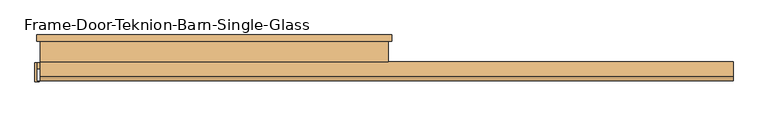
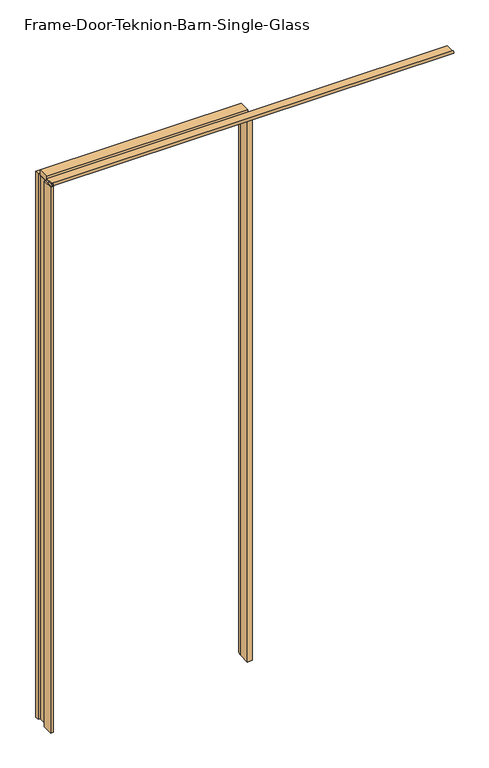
"""IFC4 building model written with IfcOpenShell, lengths in millimetres: door geometry, Frame-Door-Teknion-Barn-Single-Glass : FPBGFJ."""

from ifc_helpers import new_model, si_unit, point, frame, frame_2d, origin, origin_with_axes, place, context, project, spatial, polyline, circle_curve, ellipse_curve, trimmed, segment, composite_curve, outline, extrude, source, transform, mapped, element, save
from ifc_brep_helpers import plane_surface, cylinder_surface, advanced_brep


def frame_door_teknion_barn_single_glass_ce8aa2a7(model_context):
    return source(origin(), model_context, "Body", "SolidModel", [
        extrude(outline(polyline([(-527.9384741, -32.3583761), (-523.2069058, -32.3583761), (-523.2069058, -86.5235242), (-514.4806484, -86.5235242), (-514.4806484, -88.3672512), (-527.9384741, -88.3672512), (-527.9384741, -32.3583761)])), origin_with_axes(), (0.0, 0.0, 1.0), 2941.1139997),
        advanced_brep(
        [(-515.4800297, 50.0254003, 0.0), (-497.6624339, 10.863653, 0.0), (-497.6624339, -50.0254003, 0.0), (-523.2148343, -50.0254003, 0.0), (-523.2148343, -31.6863997, 0.0), (-511.4800343, -31.6863997, 0.0), (-511.4800343, 30.7214003, 0.0), (-523.2402343, 30.7214003, 0.0), (-523.2402343, 50.0254003, 0.0), (-515.4800297, 50.0254003, 2933.379195), (-497.6624339, 10.863653, 2915.5615993), (-497.6624339, -50.0254003, 2915.5615993), (497.6624339, -50.0254003, 2915.5615993), (497.6624339, -50.0254003, 0.0), (523.2148343, -50.0254003, 0.0), (523.2148343, -50.0254003, 2941.1139997), (-523.2148343, -50.0254003, 2941.1139997), (-523.2148343, -31.6863997, 2941.1139997), (523.2148343, -31.6863997, 2941.1139997), (523.2148343, -31.6863997, 0.0), (511.4800343, -31.6863997, 0.0), (511.4800343, -31.6863997, 2929.3791997), (-511.4800343, -31.6863997, 2929.3791997), (-511.4800343, 30.7214003, 2929.3791997), (511.4800343, 30.7214003, 2929.3791997), (511.4800343, 30.7214003, 0.0), (523.2402343, 30.7214003, 0.0), (523.2402343, 30.7214003, 2941.1393997), (-523.2402343, 30.7214003, 2941.1393997), (-523.2402343, 50.0254003, 2941.1393997), (523.2402343, 50.0254003, 2941.1393997), (523.2402343, 50.0254003, 0.0), (515.4800297, 50.0254003, 0.0), (515.4800297, 50.0254003, 2933.379195), (497.6624339, 10.863653, 2915.5615993), (497.6624339, 10.863653, 0.0)],
        [
            (0, 1, circle_curve(frame((-549.6085326, 10.863653, 0.0), z_axis=(0.0, 0.0, -1.0), x_axis=(-1.0, 0.0, 0.0)), 51.9460987)),
            (1, 2),
            (2, 3),
            (3, 4),
            (4, 5),
            (5, 6),
            (6, 7),
            (7, 8),
            (8, 0),
            (0, 9),
            (9, 10, ellipse_curve(frame((-549.6085326, 10.863653, 2967.5076979), z_axis=(-0.7071067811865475, 0.0, -0.7071067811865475), x_axis=(0.7071067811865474, 0.0, -0.7071067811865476)), 73.4628772, 51.9460987)),
            (10, 1),
            (10, 11),
            (11, 2),
            (11, 12),
            (12, 13),
            (13, 14),
            (14, 15),
            (15, 16),
            (16, 3),
            (16, 17),
            (17, 4),
            (17, 18),
            (18, 19),
            (19, 20),
            (20, 21),
            (21, 22),
            (22, 5),
            (22, 23),
            (23, 6),
            (23, 24),
            (24, 25),
            (25, 26),
            (26, 27),
            (27, 28),
            (28, 7),
            (28, 29),
            (29, 8),
            (29, 30),
            (30, 31),
            (31, 32),
            (32, 33),
            (33, 9),
            (12, 34),
            (34, 35),
            (35, 13),
            (34, 33, ellipse_curve(frame((549.6085326, 10.863653, 2967.5076979), z_axis=(0.7071067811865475, 0.0, -0.7071067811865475), x_axis=(0.7071067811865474, 0.0, 0.7071067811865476)), 73.4628772, 51.9460987)),
            (32, 35, circle_curve(frame((549.6085326, 10.863653, 0.0), z_axis=(0.0, 0.0, 1.0), x_axis=(1.0, 0.0, 0.0)), 51.9460987)),
            (31, 26),
            (25, 20),
            (19, 14),
            (18, 15),
            (24, 21),
            (30, 27),
            (10, 34),
        ],
        [
            plane_surface(frame((-512.4152344, 0.0, 0.0), z_axis=(0.0, 0.0, -1.0), x_axis=(0.0, -1.0, 0.0))),
            cylinder_surface(frame((-549.6085326, 10.863653, 0.0), z_axis=(0.0, 0.0, -1.0), x_axis=(-1.0, 0.0, 0.0)), 51.9460987),
            plane_surface(frame((-497.6624339, 10.863653, 0.0), z_axis=(1.0, 0.0, 0.0), x_axis=(0.0, 0.0, 1.0))),
            plane_surface(frame((-497.6624339, -50.0254003, 0.0), z_axis=(0.0, -1.0, 0.0), x_axis=(0.0, 0.0, 1.0))),
            plane_surface(frame((-523.2148343, -50.0254003, 0.0), z_axis=(-1.0, 0.0, 0.0), x_axis=(0.0, 0.0, 1.0))),
            plane_surface(frame((-523.2148343, -31.6863997, 0.0), z_axis=(0.0, 1.0, 0.0), x_axis=(0.0, 0.0, 1.0))),
            plane_surface(frame((-511.4800343, -31.6863997, 0.0), z_axis=(-1.0, 0.0, 0.0), x_axis=(0.0, 0.0, 1.0))),
            plane_surface(frame((-511.4800343, 30.7214003, 0.0), z_axis=(0.0, -1.0, 0.0), x_axis=(0.0, 0.0, 1.0))),
            plane_surface(frame((-523.2402343, 30.7214003, 0.0), z_axis=(-1.0, 0.0, 0.0), x_axis=(0.0, 0.0, 1.0))),
            plane_surface(frame((-523.2402343, 50.0254003, 0.0), z_axis=(0.0, 1.0, 0.0), x_axis=(0.0, 0.0, 1.0))),
            plane_surface(frame((497.6624339, 10.863653, 2915.5615993), z_axis=(-1.0, 0.0, 0.0), x_axis=(0.0, 0.0, -1.0))),
            cylinder_surface(frame((549.6085326, 10.863653, 2930.3143997), z_axis=(0.0, 0.0, 1.0), x_axis=(1.0, 0.0, 0.0)), 51.9460987),
            plane_surface(frame((512.4152344, 0.0, 0.0), z_axis=(0.0, 0.0, -1.0), x_axis=(0.0, -1.0, 0.0))),
            plane_surface(frame((523.2148343, -50.0254003, 2941.1139997), z_axis=(1.0, 0.0, 0.0), x_axis=(0.0, 0.0, -1.0))),
            plane_surface(frame((511.4800343, -31.6863997, 2929.3791997), z_axis=(1.0, 0.0, 0.0), x_axis=(0.0, 0.0, -1.0))),
            plane_surface(frame((523.2402343, 30.7214003, 2941.1393997), z_axis=(1.0, 0.0, 0.0), x_axis=(0.0, 0.0, -1.0))),
            plane_surface(frame((-497.6624339, 10.863653, 2915.5615993), z_axis=(0.0, 0.0, -1.0), x_axis=(1.0, 0.0, 0.0))),
            plane_surface(frame((-523.2148343, -50.0254003, 2941.1139997), z_axis=(0.0, 0.0, 1.0), x_axis=(1.0, 0.0, 0.0))),
            plane_surface(frame((-511.4800343, -31.6863997, 2929.3791997), z_axis=(0.0, 0.0, 1.0), x_axis=(1.0, 0.0, 0.0))),
            plane_surface(frame((-523.2402343, 30.7214003, 2941.1393997), z_axis=(0.0, 0.0, 1.0), x_axis=(1.0, 0.0, 0.0))),
            cylinder_surface(frame((-512.4152344, 10.863653, 2967.5076979), z_axis=(-1.0, 0.0, 0.0), x_axis=(0.0, 0.0, 1.0)), 51.9460987),
        ],
        [
            (0, [[1, 2, 3, 4, 5, 6, 7, 8, 9]]),
            (1, [[-1, 10, 11, 12]]),
            (2, [[-2, -12, 13, 14]]),
            (3, [[-3, -14, 15, 16, 17, 18, 19, 20]]),
            (4, [[-4, -20, 21, 22]]),
            (5, [[-5, -22, 23, 24, 25, 26, 27, 28]]),
            (6, [[-6, -28, 29, 30]]),
            (7, [[-7, -30, 31, 32, 33, 34, 35, 36]]),
            (8, [[-8, -36, 37, 38]]),
            (9, [[-9, -38, 39, 40, 41, 42, 43, -10]]),
            (10, [[44, 45, 46, -16]]),
            (11, [[47, -42, 48, -45]]),
            (12, [[-41, 49, -33, 50, -25, 51, -17, -46, -48]]),
            (13, [[52, -18, -51, -24]]),
            (14, [[53, -26, -50, -32]]),
            (15, [[54, -34, -49, -40]]),
            (16, [[-13, 55, -44, -15]]),
            (17, [[-21, -19, -52, -23]]),
            (18, [[-29, -27, -53, -31]]),
            (19, [[-37, -35, -54, -39]]),
            (20, [[-11, -43, -47, -55]]),
        ],
    ),
        extrude(outline(composite_curve([segment(polyline([(-72.4186962, 2947.035), (-29.2073222, 2947.035), (-29.2073222, 2941.955), (-72.4186962, 2941.955)]), True, "CONTINUOUS"), segment(trimmed(circle_curve(frame_2d((-78.2385673, 2944.495)), 6.35), [point((-72.4186962, 2941.955))], [point((-72.4186962, 2947.035))], False, "CARTESIAN"), True, "CONTINUOUS")], self_intersect=False)), frame((-512.4152344, 0.0, 0.0), z_axis=(1.0, 0.0, 0.0), x_axis=(0.0, 1.0, 0.0)), (0.0, 0.0, 1.0), 2040.8304687),
        extrude(outline(polyline([(-512.4152344, -29.2199219), (-512.4152344, 29.2199219), (512.4152344, 29.2199219), (512.4152344, -29.2199219), (-512.4152344, -29.2199219)])), frame((0.0, 0.0, 2930.5051563), z_axis=(0.0, 0.0, 1.0), x_axis=(1.0, 0.0, 0.0)), (0.0, 0.0, 1.0), 27.9796875),
    ])


if __name__ == "__main__":
    model = new_model("IFC4")
    model_context = context("Model", 3, world=origin())
    ifc_project = project(units=[si_unit("LENGTHUNIT", "METRE", prefix="MILLI")], contexts=[model_context])
    site = spatial("IfcSite", under=ifc_project)
    building = spatial("IfcBuilding", under=site)
    placement = place(None, origin())
    frame_door_teknion_barn_single_glass_shape = frame_door_teknion_barn_single_glass_ce8aa2a7(model_context)
    element("IfcDoor", 1, ObjectType="Frame-Door-Teknion-Barn-Single-Glass : FPBGFJ", at=placement, inside=building, context=model_context, shape_type="MappedRepresentation", body=[
        mapped(frame_door_teknion_barn_single_glass_shape, transform((0.0, 0.0, 0.0), x_axis=(1.0, 0.0, 0.0), y_axis=(0.0, 1.0, 0.0), z_axis=(0.0, 0.0, 1.0))),
    ])
    save(model, "model.ifc")
